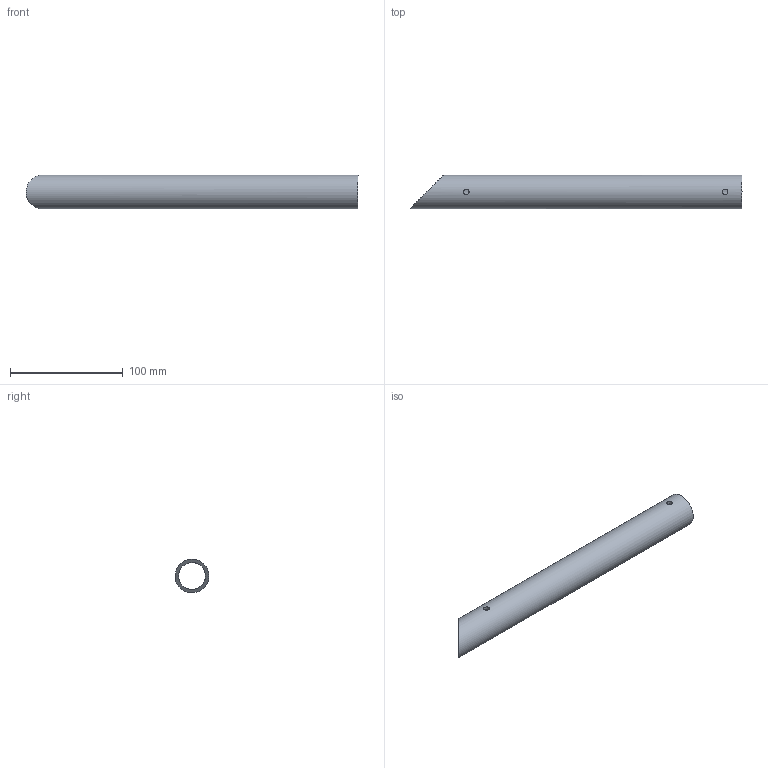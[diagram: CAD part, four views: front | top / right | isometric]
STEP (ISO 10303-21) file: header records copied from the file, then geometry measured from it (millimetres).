
FILE_DESCRIPTION(/* description */ (''),/* implementation_level */ '2;1');
FILE_NAME(/* name */ 'Pos116-Precisie buis 30x3-Aluminium-1st',/* time_stamp */ '2024-08-06T11:49:42+02:00',/* author */ (''),/* organization */ (''),/* preprocessor_version */ 'ST-DEVELOPER v16.5',/* originating_system */ 'HiCAD 2024 2901.2 Build 361',/* authorisation */ '');
FILE_SCHEMA (('AUTOMOTIVE_DESIGN { 1 0 10303 214 1 1 1 1 }'));
Length unit declared in the file: millimetre
Products named in the file (1): Pos116-Precisie buis 30x3-Aluminium-1st
Bounding box: 295 x 30 x 30 mm (x, y, z)
Volume: 71133 mm3; surface area: 48131.4 mm2
Topology: 1 solids, 1 shells, 6 faces, 30 edges, 22 vertices
Faces by surface type: cylinder 4, plane 2
Full cylindrical faces by diameter (mm): 5 x2, 24 x1, 30 x1
Entity records: 436 total; most frequent: CARTESIAN_POINT 156, PRESENTATION_STYLE_ASSIGNMENT 25, COLOUR_RGB 25, DRAUGHTING_PRE_DEFINED_CURVE_FONT 24, CURVE_STYLE 24, OVER_RIDING_STYLED_ITEM 24, ORIENTED_EDGE 24, DIRECTION 24
